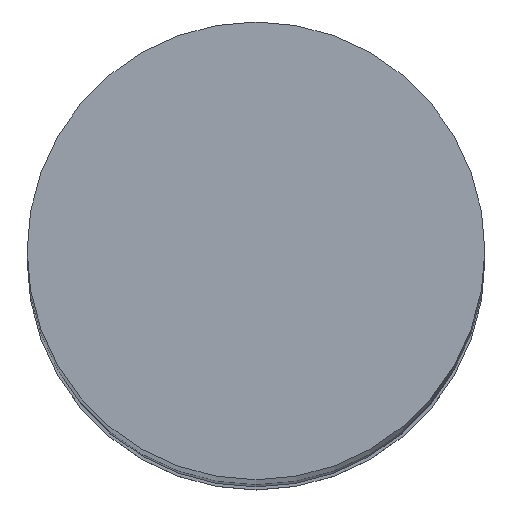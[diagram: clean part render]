
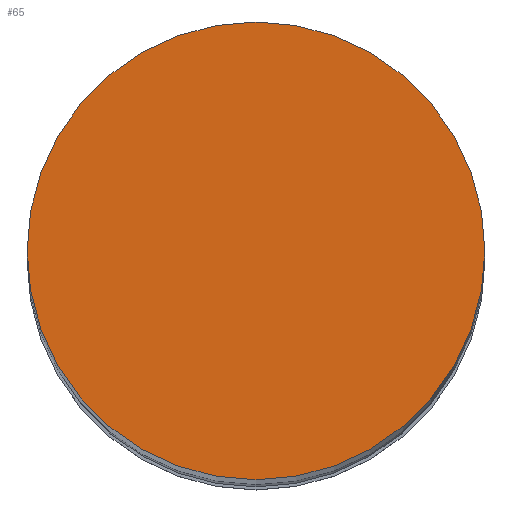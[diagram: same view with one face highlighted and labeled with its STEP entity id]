
A CAD part, top view. The second image highlights one B-rep face of the part: STEP entity #65.
In plain terms, the highlighted planar face has unit normal (0, 0, 1).
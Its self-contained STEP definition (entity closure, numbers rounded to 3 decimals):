
#65=ADVANCED_FACE('',(#125),#126,.T.);
#125=FACE_OUTER_BOUND('',#176,.T.);
#126=PLANE('',#177);
#176=EDGE_LOOP('',(#285,#286));
#177=AXIS2_PLACEMENT_3D('',#287,#288,#289);
#285=ORIENTED_EDGE('',*,*,#330,.T.);
#286=ORIENTED_EDGE('',*,*,#293,.T.);
#287=CARTESIAN_POINT('',(0.0,0.0,0.0));
#288=DIRECTION('',(0.0,0.0,1.0));
#289=DIRECTION('',(1.0,0.0,0.0));
#293=EDGE_CURVE('',#337,#334,#338,.T.);
#330=EDGE_CURVE('',#334,#337,#388,.T.);
#334=VERTEX_POINT('',#392);
#337=VERTEX_POINT('',#396);
#338=CIRCLE('',#397,3.0);
#388=CIRCLE('',#454,3.0);
#392=CARTESIAN_POINT('',(-3.0,0.0,0.0));
#396=CARTESIAN_POINT('',(3.0,0.,0.0));
#397=AXIS2_PLACEMENT_3D('',#458,#459,#460);
#454=AXIS2_PLACEMENT_3D('',#519,#520,#521);
#458=CARTESIAN_POINT('',(0.0,0.0,0.0));
#459=DIRECTION('',(0.0,0.0,1.0));
#460=DIRECTION('',(-1.0,0.0,0.0));
#519=CARTESIAN_POINT('',(0.0,0.0,0.0));
#520=DIRECTION('',(0.0,0.0,1.0));
#521=DIRECTION('',(-1.0,0.0,0.0));
